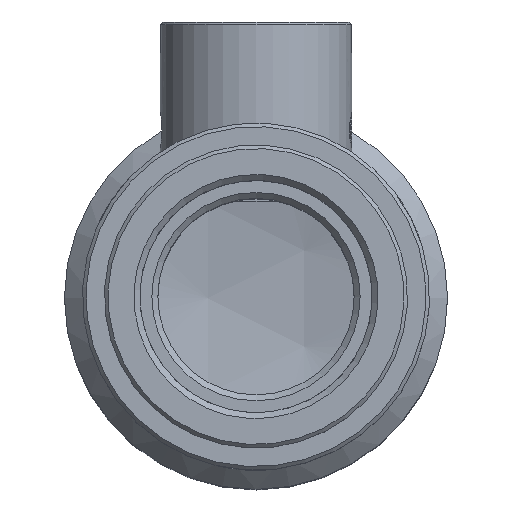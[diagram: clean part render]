
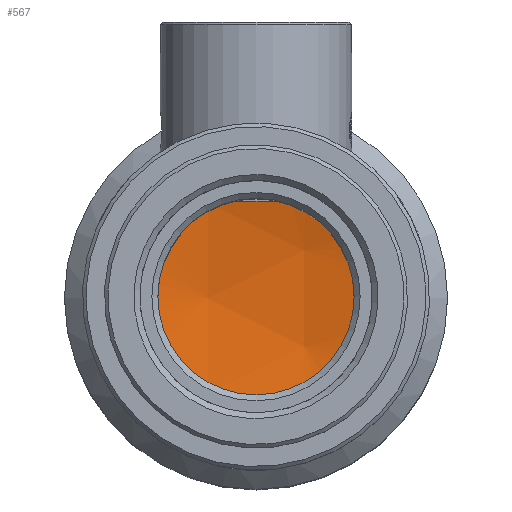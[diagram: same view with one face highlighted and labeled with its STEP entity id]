
A CAD part, top view. The second image highlights one B-rep face of the part: STEP entity #567.
In plain terms, the highlighted spherical face has radius 43.2 mm.
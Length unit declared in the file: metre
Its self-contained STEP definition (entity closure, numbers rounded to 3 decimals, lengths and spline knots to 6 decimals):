
#567=ADVANCED_FACE('1:31341',(#1322),#1323,.F.);
#1322=FACE_OUTER_BOUND('',#2506,.T.);
#1323=SPHERICAL_SURFACE('',#2507,0.0432);
#2506=EDGE_LOOP('',(#3974));
#2507=AXIS2_PLACEMENT_3D('',#3975,#3976,#3977);
#3974=ORIENTED_EDGE('',*,*,#5531,.F.);
#3975=CARTESIAN_POINT('',(0.000546,0.00141,0.010929));
#3976=DIRECTION('',(1.,-0.004,0.));
#3977=DIRECTION('',(0.004,1.,0.));
#5531=EDGE_CURVE('1:31953',#6586,#6586,#6587,.T.);
#6586=VERTEX_POINT('',#8398);
#6587=CIRCLE('',#8399,0.011936);
#8398=CARTESIAN_POINT('',(-0.01139,0.00141,-0.03059));
#8399=AXIS2_PLACEMENT_3D('',#9529,#9530,#9531);
#9529=CARTESIAN_POINT('',(0.000546,0.00141,-0.03059));
#9530=DIRECTION('',(0.,0.0,-1.0));
#9531=DIRECTION('',(-1.0,0.0,0.));
